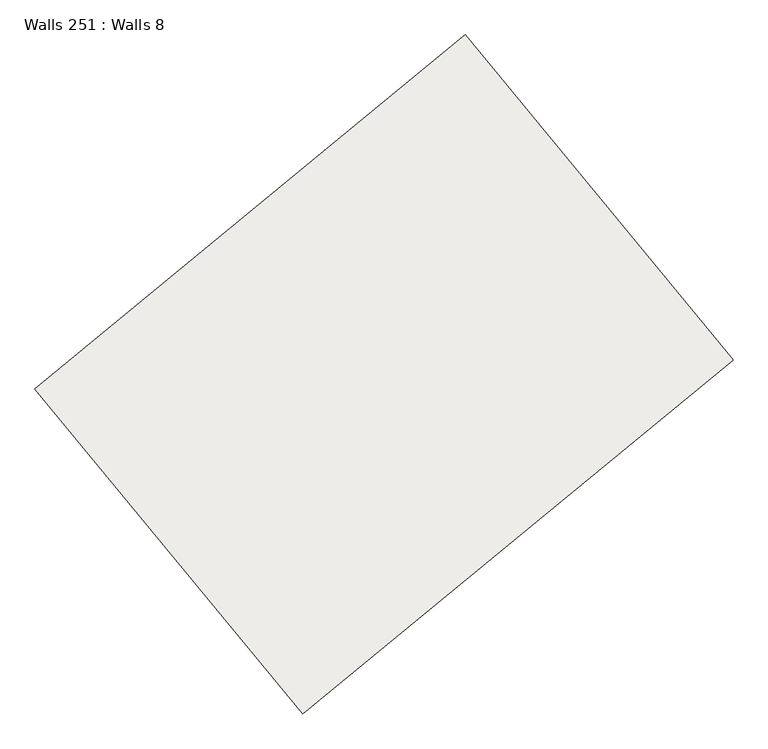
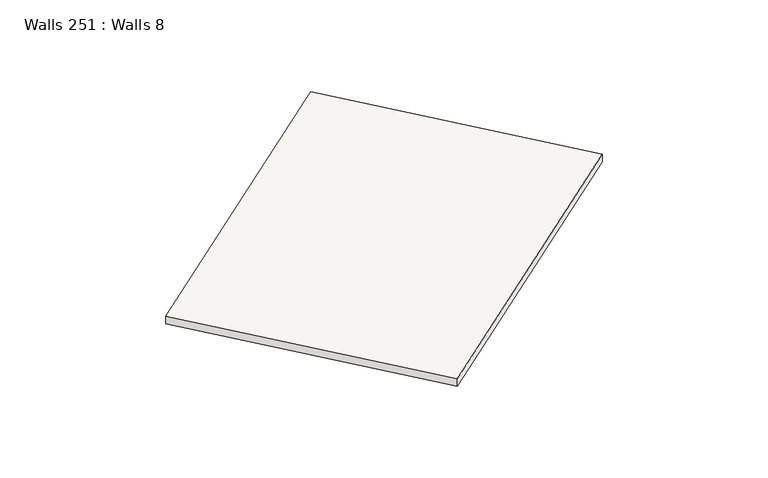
"""IFC4 building model written with IfcOpenShell, lengths in millimetres: slab geometry, Walls 251 : Walls 8."""

from ifc_helpers import new_model, si_unit, frame, origin, place, context, project, spatial, polyline, outline, extrude, source, transform, mapped, element, save


def walls_251_walls_8_98d12543(model_context):
    return source(origin(), model_context, "Body", "SweptSolid", [
        extrude(outline(polyline([(-50.0, 0.0), (50.0, 0.0), (10.0, -4500.0), (-90.0, -4500.0), (-50.0, 0.0)])), frame((-277463.2458464, -435589.6787221, 634210.0), z_axis=(-0.6353361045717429, 0.7722357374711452, 0.0), x_axis=(0.0, 0.0, 1.0)), (0.0, 0.0, 1.0), 3400.0),
    ])


if __name__ == "__main__":
    model = new_model("IFC4")
    model_context = context("Model", 3, world=origin())
    ifc_project = project(units=[si_unit("LENGTHUNIT", "METRE", prefix="MILLI")], contexts=[model_context])
    site = spatial("IfcSite", under=ifc_project)
    building = spatial("IfcBuilding", under=site)
    placement = place(None, origin())
    walls_251_walls_8_shape = walls_251_walls_8_98d12543(model_context)
    element("IfcSlab", 1, ObjectType="Walls 251 : Walls 8", at=placement, inside=building, context=model_context, shape_type="MappedRepresentation", body=[
        mapped(walls_251_walls_8_shape, transform((0.0, 0.0, 0.0), x_axis=(1.0, 0.0, 0.0), y_axis=(0.0, 1.0, 0.0), z_axis=(0.0, 0.0, 1.0))),
    ])
    save(model, "model.ifc")
